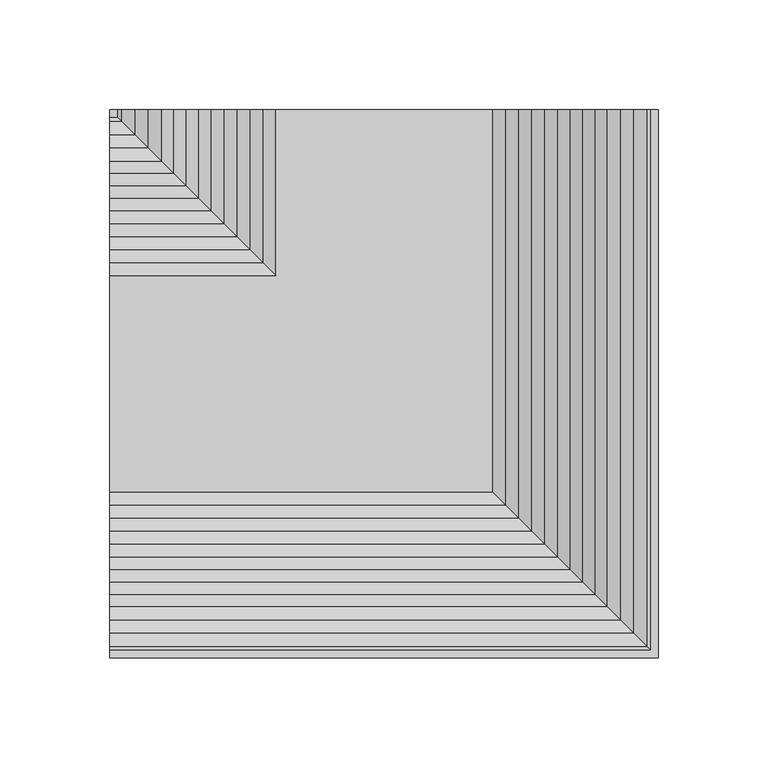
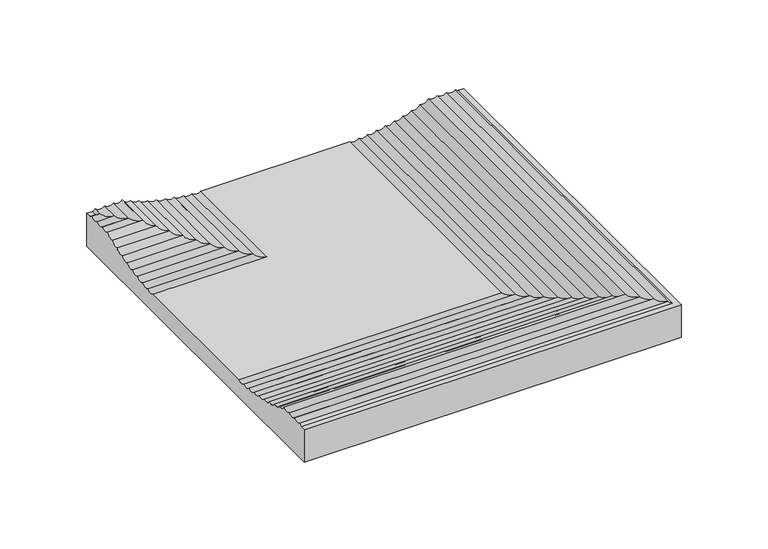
"""IFC4 building model written with IfcOpenShell, lengths in millimetres: proxy geometry, ROSA GRES_204 Esquina : Pieza 204_Aqua_Indubeige_Tecno."""

import ifcopenshell
import ifcopenshell.guid

model = None  # the IFC model being written
_history = None  # IfcOwnerHistory: only IFC2X3 demands one
_inside = {}  # id of a spatial element -> (the spatial element, [elements in it])
_under = {}  # id of a project, library or spatial element -> (it, [spatial elements below it])
_declared = {}  # id of a project -> (the project, [libraries it declares])
_typed = {}  # id of a type object -> (the type object, [elements of that type])
_made_of = {}  # id of a material, layer set ... -> (it, [elements and type objects made of it])


def new_model(schema):
    """Start an empty IFC model of exactly this schema.

    Asked for "IFC4X3", IfcOpenShell would pick the latest addendum, in which some entities
    have other attributes; the version numbers below select the first issue.
    IFC2X3 requires an IfcOwnerHistory on every rooted entity: one is made here for all.
    """
    global model, _history
    if schema == "IFC4X3":
        model = ifcopenshell.file(schema_version=(4, 3, 0, 0))
    else:
        model = ifcopenshell.file(schema=schema)
    _inside.clear()
    _under.clear()
    _declared.clear()
    _typed.clear()
    _made_of.clear()
    _history = None
    if model.schema == "IFC2X3":
        org = make("IfcOrganization", Name="unknown")
        user = make(
            "IfcPersonAndOrganization",
            ThePerson=make("IfcPerson", FamilyName="unknown"),
            TheOrganization=org,
        )
        app = make(
            "IfcApplication",
            ApplicationDeveloper=org,
            Version="unknown",
            ApplicationFullName="unknown",
            ApplicationIdentifier="unknown",
        )
        _history = make(
            "IfcOwnerHistory",
            OwningUser=user,
            OwningApplication=app,
            ChangeAction="ADDED",
            CreationDate=0,
        )
    return model


def make(cls, **values):
    """One entity of the class cls with the attributes given. An attribute that is None is left unset."""
    return model.create_entity(
        cls, **{name: value for name, value in values.items() if value is not None}
    )


def rooted(cls, **values):
    """An entity with a GlobalId (a new one), such as an element, a storey or a relation."""
    return make(cls, GlobalId=ifcopenshell.guid.new(), OwnerHistory=_history, **values)


def si_unit(unit_type, name, prefix=None):
    """IfcSIUnit, for example si_unit("LENGTHUNIT", "METRE", prefix="MILLI")."""
    return make("IfcSIUnit", UnitType=unit_type, Prefix=prefix, Name=name)


def assignment(units):
    """IfcUnitAssignment: the units of a project."""
    return None if units is None else make("IfcUnitAssignment", Units=units)


def point(xyz):
    """IfcCartesianPoint."""
    return None if xyz is None else make("IfcCartesianPoint", Coordinates=xyz)


def direction(xyz):
    """IfcDirection."""
    return None if xyz is None else make("IfcDirection", DirectionRatios=xyz)


def frame(location, z_axis=None, x_axis=None):
    """IfcAxis2Placement3D, a coordinate frame: its origin and axes. An axis left out is left unset."""
    return make(
        "IfcAxis2Placement3D",
        Location=point(location),
        Axis=direction(z_axis),
        RefDirection=direction(x_axis),
    )


def origin():
    """The frame at (0, 0, 0) with its axes left unset."""
    return frame((0.0, 0.0, 0.0))


def place(relative_to, where):
    """IfcLocalPlacement: puts the frame where relative to a parent placement (None: the world)."""
    return make(
        "IfcLocalPlacement", PlacementRelTo=relative_to, RelativePlacement=where
    )


def context(
    kind, dimensions, precision=None, world=None, true_north=None, identifier=None
):
    """IfcGeometricRepresentationContext, for example the 3D "Model" context."""
    return make(
        "IfcGeometricRepresentationContext",
        ContextIdentifier=identifier,
        ContextType=kind,
        CoordinateSpaceDimension=dimensions,
        Precision=precision,
        WorldCoordinateSystem=world,
        TrueNorth=true_north,
    )


def project(units=None, contexts=None):
    """IfcProject with its units and contexts."""
    return rooted(
        "IfcProject",
        Name="project",
        RepresentationContexts=contexts,
        UnitsInContext=assignment(units),
    )


def spatial(cls, under=None, at=None, **own):
    """A site, building, storey or space (cls), placed at a placement, below another one or the project."""
    s = rooted(cls, ObjectPlacement=at, **own)
    if under is not None:
        _under.setdefault(under.id(), (under, []))[1].append(s)
    return s


def polyline(points):
    """IfcPolyline through the points."""
    return make("IfcPolyline", Points=[point(p) for p in points])


def circle_curve(where, radius):
    """IfcCircle in the frame where."""
    return make("IfcCircle", Position=where, Radius=radius)


def ellipse_curve(where, semi_axis1, semi_axis2):
    """IfcEllipse in the frame where."""
    return make(
        "IfcEllipse", Position=where, SemiAxis1=semi_axis1, SemiAxis2=semi_axis2
    )


def shape(context_of_items, identifier, shape_type, items):
    """IfcShapeRepresentation: the items that make up one representation, for example the "Body"."""
    return make(
        "IfcShapeRepresentation",
        ContextOfItems=context_of_items,
        RepresentationIdentifier=identifier,
        RepresentationType=shape_type,
        Items=items,
    )


def source(mapping_origin, context_of_items, identifier, shape_type, items):
    """IfcRepresentationMap: a shape defined once, which mapped items show again and again."""
    return make(
        "IfcRepresentationMap",
        MappingOrigin=mapping_origin,
        MappedRepresentation=shape(context_of_items, identifier, shape_type, items),
    )


def transform(
    local_origin,
    x_axis=None,
    y_axis=None,
    z_axis=None,
    scale=None,
    scale2=None,
    scale3=None,
    uniform=True,
):
    """IfcCartesianTransformationOperator3D, or its non-uniform kind. x_axis, y_axis, z_axis: its Axis1, 2, 3."""
    if uniform:
        return make(
            "IfcCartesianTransformationOperator3D",
            Axis1=direction(x_axis),
            Axis2=direction(y_axis),
            LocalOrigin=point(local_origin),
            Scale=scale,
            Axis3=direction(z_axis),
        )
    return make(
        "IfcCartesianTransformationOperator3DnonUniform",
        Axis1=direction(x_axis),
        Axis2=direction(y_axis),
        LocalOrigin=point(local_origin),
        Scale=scale,
        Axis3=direction(z_axis),
        Scale2=scale2,
        Scale3=scale3,
    )


def mapped(mapping_source, mapping_target):
    """IfcMappedItem: shows the shape of a source again, moved by a transform."""
    return make(
        "IfcMappedItem", MappingSource=mapping_source, MappingTarget=mapping_target
    )


def made_of(thing, what):
    """Note that an element or type object is made of a material, layer set ...; save() writes the relation."""
    if what is not None:
        _made_of.setdefault(what.id(), (what, []))[1].append(thing)
    return thing


def element(
    cls,
    number,
    at=None,
    inside=None,
    cuts=None,
    type_object=None,
    material=None,
    context=None,
    identifier="Body",
    shape_type=None,
    held_by="IfcProductDefinitionShape",
    body=None,
    shapes=None,
    **own,
):
    """One element of the class cls, such as IfcWall. Its Tag is "e" and its number.

    at: its placement. inside: the storey or other place that contains it. cuts: it is an
    opening in that element (IfcRelVoidsElement). A single representation is given by context,
    identifier, shape_type and body (its items); several are given by shapes. held_by: the class
    of the entity that holds the representations. save() writes the other relations.
    """
    e = rooted(cls, Tag="e%d" % number, ObjectPlacement=at, **own)
    if body is not None:
        shapes = [shape(context, identifier, shape_type, body)]
    if shapes is not None:
        e.Representation = make(held_by, Representations=shapes)
    if inside is not None:
        _inside.setdefault(inside.id(), (inside, []))[1].append(e)
    if cuts is not None:
        rooted(
            "IfcRelVoidsElement", RelatingBuildingElement=cuts, RelatedOpeningElement=e
        )
    if type_object is not None:
        _typed.setdefault(type_object.id(), (type_object, []))[1].append(e)
    return made_of(e, material)


def aggregate(whole, parts):
    """IfcRelAggregates: a whole, such as a stair, and the parts it consists of."""
    return rooted("IfcRelAggregates", RelatingObject=whole, RelatedObjects=parts)


def save(model, path):
    """Write the relations noted so far, then the file.

    IfcRelAggregates (storeys below a building ...), IfcRelContainedInSpatialStructure (elements
    in a storey), IfcRelDefinesByType, IfcRelAssociatesMaterial and IfcRelDeclares: one each for
    every whole, place, type object, material and project.
    """
    for whole, parts in _under.values():
        aggregate(whole, parts)
    for where, things in _inside.values():
        rooted(
            "IfcRelContainedInSpatialStructure",
            RelatedElements=things,
            RelatingStructure=where,
        )
    for kind, things in _typed.values():
        rooted("IfcRelDefinesByType", RelatedObjects=things, RelatingType=kind)
    for what, things in _made_of.values():
        rooted("IfcRelAssociatesMaterial", RelatedObjects=things, RelatingMaterial=what)
    for by, libraries in _declared.values():
        rooted("IfcRelDeclares", RelatingContext=by, RelatedDefinitions=libraries)
    model.write(path)


def plane_surface(at):
    """IfcPlane: the flat surface through the origin of the frame at, square to its z axis."""
    return make("IfcPlane", Position=at)


def revolved_surface(curve, axis_point, axis_direction):
    """IfcSurfaceOfRevolution: the curve turned about the line through axis_point along axis_direction."""
    return make(
        "IfcSurfaceOfRevolution",
        SweptCurve=make("IfcArbitraryOpenProfileDef", ProfileType="CURVE", Curve=curve),
        AxisPosition=make("IfcAxis1Placement", Location=point(axis_point), Axis=direction(axis_direction)),
    )


def advanced_brep(points, edges, surfaces, faces):
    """IfcAdvancedBrep: a solid bounded by faces that lie on surfaces and meet in shared edges.

    An edge is (start, end): straight between two places in points (the first is 0);
    or (start, end, curve); or (start, end, curve, False) where it runs against its curve.
    A face is (place in surfaces, loops), or (place, loops, False) where it looks against
    its surface's normal. A loop lists edges by number (the first is 1), with a minus sign
    where the edge is run from its end to its start. The first loop is the outer one.
    """
    corners = [point(p) for p in points]
    vertices = [make("IfcVertexPoint", VertexGeometry=c) for c in corners]
    made = []
    for start, end, *more in edges:
        made.append(
            make(
                "IfcEdgeCurve",
                EdgeStart=vertices[start],
                EdgeEnd=vertices[end],
                EdgeGeometry=more[0] if more else make("IfcPolyline", Points=[corners[start], corners[end]]),
                SameSense=more[1] if len(more) > 1 else True,
            )
        )
    hull = []
    for where, loops, *sense in faces:
        bounds = []
        for j, loop in enumerate(loops):
            ring = [make("IfcOrientedEdge", EdgeElement=made[abs(k) - 1], Orientation=k > 0) for k in loop]
            bounds.append(
                make(
                    "IfcFaceOuterBound" if j == 0 else "IfcFaceBound",
                    Bound=make("IfcEdgeLoop", EdgeList=ring),
                    Orientation=True,
                )
            )
        hull.append(make("IfcAdvancedFace", Bounds=bounds, FaceSurface=surfaces[where], SameSense=sense[0] if sense else True))
    return make("IfcAdvancedBrep", Outer=make("IfcClosedShell", CfsFaces=hull))


def generic_models_85faa964(model_context):
    return source(origin(), model_context, "Body", "AdvancedBrep", [
        advanced_brep(
        [(0.0, -246.7435851, 22.8672484), (0.0, -244.8336795, 24.1254722), (0.0, -238.7501701, 24.0443215), (0.0, -232.7432044, 24.0385354), (0.0, -226.6788681, 24.1126825), (0.0, -221.1341153, 21.702672), (0.0, -215.5529324, 19.6629784), (0.0, -209.8208966, 17.7784107), (0.0, -204.0800466, 16.2504407), (0.0, -198.1884131, 14.9241491), (0.0, -192.3510521, 13.8344915), (0.0, -186.3696169, 12.9927609), (0.0, -180.4689448, 12.3552884), (0.0, -174.5684226, 11.9299493), (0.0, -75.6586011, 11.9299493), (0.0, -69.7580788, 12.3552884), (0.0, -63.8574067, 12.9927609), (0.0, -57.8759715, 13.8344915), (0.0, -52.0386105, 14.9241491), (0.0, -46.146977, 16.2504407), (0.0, -40.406127, 17.7784107), (0.0, -34.6740913, 19.6629784), (0.0, -29.0929084, 21.702672), (0.0, -23.5481555, 24.1126825), (0.0, -17.4838192, 24.0385354), (0.0, -11.4768535, 24.0443215), (0.0, -5.3933441, 24.1254722), (0.0, -3.4834385, 22.8672484), (0.0, 0.0, 22.8672484), (0.0, 0.0, 0.0), (0.0, -250.2270236, 0.0), (0.0, -250.2270236, 22.8672484), (246.7435851, 0.0, 22.8672484), (250.2270236, 0.0, 22.8672484), (250.2270236, 0.0, 0.0), (3.4834385, 0.0, 22.8672484), (5.3933441, 0.0, 24.1254722), (11.4768535, 0.0, 24.0443215), (17.4838192, 0.0, 24.0385354), (23.5481555, 0.0, 24.1126825), (29.0929084, 0.0, 21.702672), (34.6740913, 0.0, 19.6629784), (40.406127, 0.0, 17.7784107), (46.146977, 0.0, 16.2504407), (52.0386105, 0.0, 14.9241491), (57.8759715, 0.0, 13.8344915), (63.8574067, 0.0, 12.9927609), (69.7580788, 0.0, 12.3552884), (75.6586011, 0.0, 11.9299493), (174.5684226, 0.0, 11.9299493), (180.4689448, 0.0, 12.3552884), (186.3696169, 0.0, 12.9927609), (192.3510521, 0.0, 13.8344915), (198.1884131, 0.0, 14.9241491), (204.0800466, 0.0, 16.2504407), (209.8208966, 0.0, 17.7784107), (215.5529324, 0.0, 19.6629784), (221.1341153, 0.0, 21.702672), (226.6788681, 0.0, 24.1126825), (232.7432044, 0.0, 24.0385354), (238.7501701, 0.0, 24.0443215), (244.8336795, 0.0, 24.1254722), (250.2270236, -250.2270236, 22.8672484), (246.7435851, -246.7435851, 22.8672484), (250.2270236, -250.2270236, 0.0), (3.4834385, -3.4834385, 22.8672484), (5.3933441, -5.3933441, 24.1254722), (11.4768535, -11.4768535, 24.0443215), (17.4838192, -17.4838192, 24.0385354), (23.5481555, -23.5481555, 24.1126825), (29.0929084, -29.0929084, 21.702672), (34.6740913, -34.6740913, 19.6629784), (40.406127, -40.406127, 17.7784107), (46.146977, -46.146977, 16.2504407), (52.0386105, -52.0386105, 14.9241491), (57.8759715, -57.8759715, 13.8344915), (63.8574067, -63.8574067, 12.9927609), (69.7580788, -69.7580788, 12.3552884), (75.6586011, -75.6586011, 11.9299493), (174.5684226, -174.5684226, 11.9299493), (180.4689448, -180.4689448, 12.3552884), (186.3696169, -186.3696169, 12.9927609), (192.3510521, -192.3510521, 13.8344915), (198.1884131, -198.1884131, 14.9241491), (204.0800466, -204.0800466, 16.2504407), (209.8208966, -209.8208966, 17.7784107), (215.5529324, -215.5529324, 19.6629784), (221.1341153, -221.1341153, 21.702672), (226.6788681, -226.6788681, 24.1126825), (232.7432044, -232.7432044, 24.0385354), (238.7501701, -238.7501701, 24.0443215), (244.8336795, -244.8336795, 24.1254722)],
        [
            (0, 1, circle_curve(frame((0.0, -246.7435851, 24.9459193), z_axis=(1.0, 0.0, 0.0), x_axis=(0.0, -1.0, 0.0)), 2.078671)),
            (1, 2, circle_curve(frame((0.0, -241.7497795, 27.2443435), z_axis=(1.0, 0.0, 0.0), x_axis=(0.0, -1.0, 0.0)), 4.3860914)),
            (2, 3, circle_curve(frame((0.0, -235.7435851, 27.2619892), z_axis=(1.0, 0.0, 0.0), x_axis=(0.0, -1.0, 0.0)), 4.4037415)),
            (3, 4, circle_curve(frame((0.0, -229.7497795, 27.2443435), z_axis=(1.0, 0.0, 0.0), x_axis=(0.0, -1.0, 0.0)), 4.3860914)),
            (4, 5, circle_curve(frame((0.0, -222.6396721, 25.8222711), z_axis=(1.0, 0.0, 0.0), x_axis=(0.0, -1.0, 0.0)), 4.3860914)),
            (5, 6, circle_curve(frame((0.0, -217.2360124, 23.7132919), z_axis=(1.0, 0.0, 0.0), x_axis=(0.0, -1.0, 0.0)), 4.3860914)),
            (6, 7, circle_curve(frame((0.0, -211.6925532, 21.7451095), z_axis=(1.0, 0.0, 0.0), x_axis=(0.0, -1.0, 0.0)), 4.3860914)),
            (7, 8, circle_curve(frame((0.0, -206.1204268, 20.1330489), z_axis=(1.0, 0.0, 0.0), x_axis=(0.0, -1.0, 0.0)), 4.3860914)),
            (8, 9, circle_curve(frame((0.0, -200.435574, 18.690854), z_axis=(1.0, 0.0, 0.0), x_axis=(0.0, -1.0, 0.0)), 4.3860914)),
            (9, 10, circle_curve(frame((0.0, -194.6773303, 17.5528551), z_axis=(1.0, 0.0, 0.0), x_axis=(0.0, -1.0, 0.0)), 4.3860914)),
            (10, 11, circle_curve(frame((0.0, -188.917114, 16.563203), z_axis=(1.0, 0.0, 0.0), x_axis=(0.0, -1.0, 0.0)), 4.3860914)),
            (11, 12, circle_curve(frame((0.0, -183.0723697, 15.8851576), z_axis=(1.0, 0.0, 0.0), x_axis=(0.0, -1.0, 0.0)), 4.3860914)),
            (12, 13, circle_curve(frame((0.0, -177.2858334, 15.372837), z_axis=(1.0, 0.0, 0.0), x_axis=(0.0, -1.0, 0.0)), 4.3860914)),
            (13, 14),
            (14, 15, circle_curve(frame((0.0, -72.9411902, 15.372837), z_axis=(1.0, 0.0, 0.0), x_axis=(0.0, -1.0, 0.0)), 4.3860914)),
            (15, 16, circle_curve(frame((0.0, -67.1546539, 15.8851576), z_axis=(1.0, 0.0, 0.0), x_axis=(0.0, -1.0, 0.0)), 4.3860914)),
            (16, 17, circle_curve(frame((0.0, -61.3099097, 16.563203), z_axis=(1.0, 0.0, 0.0), x_axis=(0.0, -1.0, 0.0)), 4.3860914)),
            (17, 18, circle_curve(frame((0.0, -55.5496933, 17.5528551), z_axis=(1.0, 0.0, 0.0), x_axis=(0.0, -1.0, 0.0)), 4.3860914)),
            (18, 19, circle_curve(frame((0.0, -49.7914497, 18.690854), z_axis=(1.0, 0.0, 0.0), x_axis=(0.0, -1.0, 0.0)), 4.3860914)),
            (19, 20, circle_curve(frame((0.0, -44.1065968, 20.1330489), z_axis=(1.0, 0.0, 0.0), x_axis=(0.0, -1.0, 0.0)), 4.3860914)),
            (20, 21, circle_curve(frame((0.0, -38.5344705, 21.7451095), z_axis=(1.0, 0.0, 0.0), x_axis=(0.0, -1.0, 0.0)), 4.3860914)),
            (21, 22, circle_curve(frame((0.0, -32.9910112, 23.7132919), z_axis=(1.0, 0.0, 0.0), x_axis=(0.0, -1.0, 0.0)), 4.3860914)),
            (22, 23, circle_curve(frame((0.0, -27.5873515, 25.8222711), z_axis=(1.0, 0.0, 0.0), x_axis=(0.0, -1.0, 0.0)), 4.3860914)),
            (23, 24, circle_curve(frame((0.0, -20.4772441, 27.2443435), z_axis=(1.0, 0.0, 0.0), x_axis=(0.0, -1.0, 0.0)), 4.3860914)),
            (24, 25, circle_curve(frame((0.0, -14.4834385, 27.2619892), z_axis=(1.0, 0.0, 0.0), x_axis=(0.0, -1.0, 0.0)), 4.4037415)),
            (25, 26, circle_curve(frame((0.0, -8.4772441, 27.2443435), z_axis=(1.0, 0.0, 0.0), x_axis=(0.0, -1.0, 0.0)), 4.3860914)),
            (26, 27, circle_curve(frame((0.0, -3.4834385, 24.9459193), z_axis=(1.0, 0.0, 0.0), x_axis=(0.0, -1.0, 0.0)), 2.078671)),
            (27, 28),
            (28, 29),
            (29, 30),
            (30, 31),
            (31, 0),
            (32, 33),
            (33, 34),
            (34, 29),
            (28, 35),
            (35, 36, circle_curve(frame((3.4834385, 0.0, 24.9459193), z_axis=(0.0, -1.0, 0.0), x_axis=(1.0, 0.0, 0.0)), 2.078671)),
            (36, 37, circle_curve(frame((8.4772441, 0.0, 27.2443435), z_axis=(0.0, -1.0, 0.0), x_axis=(1.0, 0.0, 0.0)), 4.3860914)),
            (37, 38, circle_curve(frame((14.4834385, 0.0, 27.2619892), z_axis=(0.0, -1.0, 0.0), x_axis=(1.0, 0.0, 0.0)), 4.4037415)),
            (38, 39, circle_curve(frame((20.4772441, 0.0, 27.2443435), z_axis=(0.0, -1.0, 0.0), x_axis=(1.0, 0.0, 0.0)), 4.3860914)),
            (39, 40, circle_curve(frame((27.5873515, 0.0, 25.8222711), z_axis=(0.0, -1.0, 0.0), x_axis=(1.0, 0.0, 0.0)), 4.3860914)),
            (40, 41, circle_curve(frame((32.9910112, 0.0, 23.7132919), z_axis=(0.0, -1.0, 0.0), x_axis=(1.0, 0.0, 0.0)), 4.3860914)),
            (41, 42, circle_curve(frame((38.5344705, 0.0, 21.7451095), z_axis=(0.0, -1.0, 0.0), x_axis=(1.0, 0.0, 0.0)), 4.3860914)),
            (42, 43, circle_curve(frame((44.1065968, 0.0, 20.1330489), z_axis=(0.0, -1.0, 0.0), x_axis=(1.0, 0.0, 0.0)), 4.3860914)),
            (43, 44, circle_curve(frame((49.7914497, 0.0, 18.690854), z_axis=(0.0, -1.0, 0.0), x_axis=(1.0, 0.0, 0.0)), 4.3860914)),
            (44, 45, circle_curve(frame((55.5496933, 0.0, 17.5528551), z_axis=(0.0, -1.0, 0.0), x_axis=(1.0, 0.0, 0.0)), 4.3860914)),
            (45, 46, circle_curve(frame((61.3099097, 0.0, 16.563203), z_axis=(0.0, -1.0, 0.0), x_axis=(1.0, 0.0, 0.0)), 4.3860914)),
            (46, 47, circle_curve(frame((67.1546539, 0.0, 15.8851576), z_axis=(0.0, -1.0, 0.0), x_axis=(1.0, 0.0, 0.0)), 4.3860914)),
            (47, 48, circle_curve(frame((72.9411902, 0.0, 15.372837), z_axis=(0.0, -1.0, 0.0), x_axis=(1.0, 0.0, 0.0)), 4.3860914)),
            (48, 49),
            (49, 50, circle_curve(frame((177.2858334, 0.0, 15.372837), z_axis=(0.0, -1.0, 0.0), x_axis=(1.0, 0.0, 0.0)), 4.3860914)),
            (50, 51, circle_curve(frame((183.0723697, 0.0, 15.8851576), z_axis=(0.0, -1.0, 0.0), x_axis=(1.0, 0.0, 0.0)), 4.3860914)),
            (51, 52, circle_curve(frame((188.917114, 0.0, 16.563203), z_axis=(0.0, -1.0, 0.0), x_axis=(1.0, 0.0, 0.0)), 4.3860914)),
            (52, 53, circle_curve(frame((194.6773303, 0.0, 17.5528551), z_axis=(0.0, -1.0, 0.0), x_axis=(1.0, 0.0, 0.0)), 4.3860914)),
            (53, 54, circle_curve(frame((200.435574, 0.0, 18.690854), z_axis=(0.0, -1.0, 0.0), x_axis=(1.0, 0.0, 0.0)), 4.3860914)),
            (54, 55, circle_curve(frame((206.1204268, 0.0, 20.1330489), z_axis=(0.0, -1.0, 0.0), x_axis=(1.0, 0.0, 0.0)), 4.3860914)),
            (55, 56, circle_curve(frame((211.6925532, 0.0, 21.7451095), z_axis=(0.0, -1.0, 0.0), x_axis=(1.0, 0.0, 0.0)), 4.3860914)),
            (56, 57, circle_curve(frame((217.2360124, 0.0, 23.7132919), z_axis=(0.0, -1.0, 0.0), x_axis=(1.0, 0.0, 0.0)), 4.3860914)),
            (57, 58, circle_curve(frame((222.6396721, 0.0, 25.8222711), z_axis=(0.0, -1.0, 0.0), x_axis=(1.0, 0.0, 0.0)), 4.3860914)),
            (58, 59, circle_curve(frame((229.7497795, 0.0, 27.2443435), z_axis=(0.0, -1.0, 0.0), x_axis=(1.0, 0.0, 0.0)), 4.3860914)),
            (59, 60, circle_curve(frame((235.7435851, 0.0, 27.2619892), z_axis=(0.0, -1.0, 0.0), x_axis=(1.0, 0.0, 0.0)), 4.4037415)),
            (60, 61, circle_curve(frame((241.7497795, 0.0, 27.2443435), z_axis=(0.0, -1.0, 0.0), x_axis=(1.0, 0.0, 0.0)), 4.3860914)),
            (61, 32, circle_curve(frame((246.7435851, 0.0, 24.9459193), z_axis=(0.0, -1.0, 0.0), x_axis=(1.0, 0.0, 0.0)), 2.078671)),
            (31, 62),
            (62, 33),
            (32, 63),
            (63, 0),
            (30, 64),
            (64, 62),
            (34, 64),
            (27, 65),
            (65, 35),
            (26, 66),
            (66, 65, ellipse_curve(frame((3.4834385, -3.4834385, 24.9459193), z_axis=(0.707106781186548, 0.7071067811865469, 0.0), x_axis=(0.7071067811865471, -0.7071067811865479, 0.0)), 2.9396847, 2.078671)),
            (25, 67),
            (67, 66, ellipse_curve(frame((8.4772441, -8.4772441, 27.2443435), z_axis=(0.707106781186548, 0.7071067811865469, 0.0), x_axis=(0.7071067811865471, -0.7071067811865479, 0.0)), 6.20287, 4.3860914)),
            (24, 68),
            (68, 67, ellipse_curve(frame((14.4834385, -14.4834385, 27.2619892), z_axis=(0.707106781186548, 0.7071067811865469, 0.0), x_axis=(0.7071067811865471, -0.7071067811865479, 0.0)), 6.2278309, 4.4037415)),
            (23, 69),
            (69, 68, ellipse_curve(frame((20.4772441, -20.4772441, 27.2443435), z_axis=(0.707106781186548, 0.7071067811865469, 0.0), x_axis=(0.7071067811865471, -0.7071067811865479, 0.0)), 6.20287, 4.3860914)),
            (22, 70),
            (70, 69, ellipse_curve(frame((27.5873515, -27.5873515, 25.8222711), z_axis=(0.707106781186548, 0.7071067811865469, 0.0), x_axis=(0.7071067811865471, -0.7071067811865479, 0.0)), 6.20287, 4.3860914)),
            (21, 71),
            (71, 70, ellipse_curve(frame((32.9910112, -32.9910112, 23.7132919), z_axis=(0.707106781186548, 0.7071067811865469, 0.0), x_axis=(0.7071067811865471, -0.7071067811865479, 0.0)), 6.20287, 4.3860914)),
            (20, 72),
            (72, 71, ellipse_curve(frame((38.5344705, -38.5344705, 21.7451095), z_axis=(0.707106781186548, 0.7071067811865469, 0.0), x_axis=(0.7071067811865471, -0.7071067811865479, 0.0)), 6.20287, 4.3860914)),
            (19, 73),
            (73, 72, ellipse_curve(frame((44.1065968, -44.1065968, 20.1330489), z_axis=(0.707106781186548, 0.7071067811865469, 0.0), x_axis=(0.7071067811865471, -0.7071067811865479, 0.0)), 6.20287, 4.3860914)),
            (18, 74),
            (74, 73, ellipse_curve(frame((49.7914497, -49.7914497, 18.690854), z_axis=(0.707106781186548, 0.7071067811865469, 0.0), x_axis=(0.7071067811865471, -0.7071067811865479, 0.0)), 6.20287, 4.3860914)),
            (17, 75),
            (75, 74, ellipse_curve(frame((55.5496933, -55.5496933, 17.5528551), z_axis=(0.707106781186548, 0.7071067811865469, 0.0), x_axis=(0.7071067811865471, -0.7071067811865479, 0.0)), 6.20287, 4.3860914)),
            (16, 76),
            (76, 75, ellipse_curve(frame((61.3099097, -61.3099097, 16.563203), z_axis=(0.707106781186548, 0.7071067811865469, 0.0), x_axis=(0.7071067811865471, -0.7071067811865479, 0.0)), 6.20287, 4.3860914)),
            (15, 77),
            (77, 76, ellipse_curve(frame((67.1546539, -67.1546539, 15.8851576), z_axis=(0.707106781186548, 0.7071067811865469, 0.0), x_axis=(0.7071067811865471, -0.7071067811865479, 0.0)), 6.20287, 4.3860914)),
            (14, 78),
            (78, 77, ellipse_curve(frame((72.9411902, -72.9411902, 15.372837), z_axis=(0.707106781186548, 0.7071067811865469, 0.0), x_axis=(0.7071067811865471, -0.7071067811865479, 0.0)), 6.20287, 4.3860914)),
            (13, 79),
            (79, 49),
            (48, 78),
            (12, 80),
            (80, 79, ellipse_curve(frame((177.2858334, -177.2858334, 15.372837), z_axis=(0.707106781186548, 0.7071067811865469, 0.0), x_axis=(0.7071067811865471, -0.7071067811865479, 0.0)), 6.20287, 4.3860914)),
            (11, 81),
            (81, 80, ellipse_curve(frame((183.0723697, -183.0723697, 15.8851576), z_axis=(0.707106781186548, 0.7071067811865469, 0.0), x_axis=(0.7071067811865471, -0.7071067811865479, 0.0)), 6.20287, 4.3860914)),
            (10, 82),
            (82, 81, ellipse_curve(frame((188.917114, -188.917114, 16.563203), z_axis=(0.707106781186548, 0.7071067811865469, 0.0), x_axis=(0.7071067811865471, -0.7071067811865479, 0.0)), 6.20287, 4.3860914)),
            (9, 83),
            (83, 82, ellipse_curve(frame((194.6773303, -194.6773303, 17.5528551), z_axis=(0.707106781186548, 0.7071067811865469, 0.0), x_axis=(0.7071067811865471, -0.7071067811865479, 0.0)), 6.20287, 4.3860914)),
            (8, 84),
            (84, 83, ellipse_curve(frame((200.435574, -200.435574, 18.690854), z_axis=(0.707106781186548, 0.7071067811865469, 0.0), x_axis=(0.7071067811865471, -0.7071067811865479, 0.0)), 6.20287, 4.3860914)),
            (7, 85),
            (85, 84, ellipse_curve(frame((206.1204268, -206.1204268, 20.1330489), z_axis=(0.707106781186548, 0.7071067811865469, 0.0), x_axis=(0.7071067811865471, -0.7071067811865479, 0.0)), 6.20287, 4.3860914)),
            (6, 86),
            (86, 85, ellipse_curve(frame((211.6925532, -211.6925532, 21.7451095), z_axis=(0.707106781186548, 0.7071067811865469, 0.0), x_axis=(0.7071067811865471, -0.7071067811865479, 0.0)), 6.20287, 4.3860914)),
            (5, 87),
            (87, 86, ellipse_curve(frame((217.2360124, -217.2360124, 23.7132919), z_axis=(0.707106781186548, 0.7071067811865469, 0.0), x_axis=(0.7071067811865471, -0.7071067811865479, 0.0)), 6.20287, 4.3860914)),
            (4, 88),
            (88, 87, ellipse_curve(frame((222.6396721, -222.6396721, 25.8222711), z_axis=(0.707106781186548, 0.7071067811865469, 0.0), x_axis=(0.7071067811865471, -0.7071067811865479, 0.0)), 6.20287, 4.3860914)),
            (3, 89),
            (89, 88, ellipse_curve(frame((229.7497795, -229.7497795, 27.2443435), z_axis=(0.707106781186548, 0.7071067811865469, 0.0), x_axis=(0.7071067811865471, -0.7071067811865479, 0.0)), 6.20287, 4.3860914)),
            (2, 90),
            (90, 89, ellipse_curve(frame((235.7435851, -235.7435851, 27.2619892), z_axis=(0.707106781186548, 0.7071067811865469, 0.0), x_axis=(0.7071067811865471, -0.7071067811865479, 0.0)), 6.2278309, 4.4037415)),
            (1, 91),
            (91, 90, ellipse_curve(frame((241.7497795, -241.7497795, 27.2443435), z_axis=(0.707106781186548, 0.7071067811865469, 0.0), x_axis=(0.7071067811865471, -0.7071067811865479, 0.0)), 6.20287, 4.3860914)),
            (63, 91, ellipse_curve(frame((246.7435851, -246.7435851, 24.9459193), z_axis=(0.707106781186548, 0.7071067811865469, 0.0), x_axis=(0.7071067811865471, -0.7071067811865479, 0.0)), 2.9396847, 2.078671)),
            (66, 36),
            (67, 37),
            (68, 38),
            (69, 39),
            (70, 40),
            (71, 41),
            (72, 42),
            (73, 43),
            (74, 44),
            (75, 45),
            (76, 46),
            (77, 47),
            (80, 50),
            (81, 51),
            (82, 52),
            (83, 53),
            (84, 54),
            (85, 55),
            (86, 56),
            (87, 57),
            (88, 58),
            (89, 59),
            (90, 60),
            (91, 61),
        ],
        [
            plane_surface(frame((0.0, -250.0, 0.0), z_axis=(-1.0, 0.0, 0.0), x_axis=(0.0, 0.0, 1.0))),
            plane_surface(frame((250.0, 0.0, 0.0), z_axis=(0.0, 1.0, 0.0), x_axis=(0.0, 0.0, 1.0))),
            plane_surface(frame((0.0, -246.7435851, 22.8672484), z_axis=(0.0, 0.0, 1.0), x_axis=(1.0, 0.0, 0.0))),
            plane_surface(frame((0.0, -250.2270236, 22.8672484), z_axis=(0.0, -1.0, 0.0), x_axis=(1.0, 0.0, 0.0))),
            plane_surface(frame((0.0, -250.2270236, 0.0), z_axis=(0.0, 0.0, -1.0), x_axis=(1.0, 0.0, 0.0))),
            plane_surface(frame((0.0, 0.0, 22.8672484), z_axis=(0.0, 4.293775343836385e-12, 1.0), x_axis=(1.0, 0.0, 0.0))),
            revolved_surface(polyline([(5.56210948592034, -5.5621095, 24.9459193), (0.0, -5.5621095, 24.9459193)]), (0.0, -3.4834385, 24.9459193), (1.0, 0.0, 0.0)),
            revolved_surface(polyline([(12.863335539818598, -12.8633355, 27.2443435), (0.0, -12.8633355, 27.2443435)]), (0.0, -8.4772441, 27.2443435), (1.0, 0.0, 0.0)),
            revolved_surface(polyline([(18.887179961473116, -18.88718, 27.2619892), (0.0, -18.88718, 27.2619892)]), (0.0, -14.4834385, 27.2619892), (1.0, 0.0, 0.0)),
            revolved_surface(polyline([(24.8633355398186, -24.863335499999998, 27.2443435), (0.0, -24.863335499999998, 27.2443435)]), (0.0, -20.4772441, 27.2443435), (1.0, 0.0, 0.0)),
            revolved_surface(polyline([(31.973442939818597, -31.973442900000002, 25.8222711), (0.0, -31.973442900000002, 25.8222711)]), (0.0, -27.5873515, 25.8222711), (1.0, 0.0, 0.0)),
            revolved_surface(polyline([(37.3771026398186, -37.3771026, 23.7132919), (0.0, -37.3771026, 23.7132919)]), (0.0, -32.9910112, 23.7132919), (1.0, 0.0, 0.0)),
            revolved_surface(polyline([(42.9205619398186, -42.920561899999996, 21.7451095), (0.0, -42.920561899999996, 21.7451095)]), (0.0, -38.5344705, 21.7451095), (1.0, 0.0, 0.0)),
            revolved_surface(polyline([(48.4926882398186, -48.492688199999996, 20.1330489), (0.0, -48.492688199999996, 20.1330489)]), (0.0, -44.1065968, 20.1330489), (1.0, 0.0, 0.0)),
            revolved_surface(polyline([(54.1775411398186, -54.1775411, 18.690854), (0.0, -54.1775411, 18.690854)]), (0.0, -49.7914497, 18.690854), (1.0, 0.0, 0.0)),
            revolved_surface(polyline([(59.9357847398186, -59.9357847, 17.5528551), (0.0, -59.9357847, 17.5528551)]), (0.0, -55.5496933, 17.5528551), (1.0, 0.0, 0.0)),
            revolved_surface(polyline([(65.69600113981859, -65.6960011, 16.563203), (0.0, -65.6960011, 16.563203)]), (0.0, -61.3099097, 16.563203), (1.0, 0.0, 0.0)),
            revolved_surface(polyline([(71.5407453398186, -71.5407453, 15.8851576), (0.0, -71.5407453, 15.8851576)]), (0.0, -67.1546539, 15.8851576), (1.0, 0.0, 0.0)),
            revolved_surface(polyline([(77.3272816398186, -77.32728159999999, 15.372837), (0.0, -77.32728159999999, 15.372837)]), (0.0, -72.9411902, 15.372837), (1.0, 0.0, 0.0)),
            plane_surface(frame((0.0, -75.6586011, 11.9299493), z_axis=(0.0, 0.0, 1.0), x_axis=(1.0, 0.0, 0.0))),
            revolved_surface(polyline([(181.6719248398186, -181.6719248, 15.372837), (0.0, -181.6719248, 15.372837)]), (0.0, -177.2858334, 15.372837), (1.0, 0.0, 0.0)),
            revolved_surface(polyline([(187.45846113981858, -187.4584611, 15.8851576), (0.0, -187.4584611, 15.8851576)]), (0.0, -183.0723697, 15.8851576), (1.0, 0.0, 0.0)),
            revolved_surface(polyline([(193.30320543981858, -193.3032054, 16.563203), (0.0, -193.3032054, 16.563203)]), (0.0, -188.917114, 16.563203), (1.0, 0.0, 0.0)),
            revolved_surface(polyline([(199.06342173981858, -199.0634217, 17.5528551), (0.0, -199.0634217, 17.5528551)]), (0.0, -194.6773303, 17.5528551), (1.0, 0.0, 0.0)),
            revolved_surface(polyline([(204.8216654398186, -204.8216654, 18.690854), (0.0, -204.8216654, 18.690854)]), (0.0, -200.435574, 18.690854), (1.0, 0.0, 0.0)),
            revolved_surface(polyline([(210.50651823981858, -210.5065182, 20.1330489), (0.0, -210.5065182, 20.1330489)]), (0.0, -206.1204268, 20.1330489), (1.0, 0.0, 0.0)),
            revolved_surface(polyline([(216.07864463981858, -216.0786446, 21.7451095), (0.0, -216.0786446, 21.7451095)]), (0.0, -211.6925532, 21.7451095), (1.0, 0.0, 0.0)),
            revolved_surface(polyline([(221.62210383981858, -221.6221038, 23.7132919), (0.0, -221.6221038, 23.7132919)]), (0.0, -217.2360124, 23.7132919), (1.0, 0.0, 0.0)),
            revolved_surface(polyline([(227.0257635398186, -227.0257635, 25.8222711), (0.0, -227.0257635, 25.8222711)]), (0.0, -222.6396721, 25.8222711), (1.0, 0.0, 0.0)),
            revolved_surface(polyline([(234.13587093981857, -234.1358709, 27.2443435), (0.0, -234.1358709, 27.2443435)]), (0.0, -229.7497795, 27.2443435), (1.0, 0.0, 0.0)),
            revolved_surface(polyline([(240.1473265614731, -240.14732659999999, 27.2619892), (0.0, -240.14732659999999, 27.2619892)]), (0.0, -235.7435851, 27.2619892), (1.0, 0.0, 0.0)),
            revolved_surface(polyline([(246.13587093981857, -246.1358709, 27.2443435), (0.0, -246.1358709, 27.2443435)]), (0.0, -241.7497795, 27.2443435), (1.0, 0.0, 0.0)),
            revolved_surface(polyline([(248.82225608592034, -248.8222561, 24.9459193), (0.0, -248.8222561, 24.9459193)]), (0.0, -246.7435851, 24.9459193), (1.0, 0.0, 0.0)),
            plane_surface(frame((250.2270236, -250.2270236, 22.8672484), z_axis=(1.0, 0.0, 0.0), x_axis=(0.0, 1.0, 0.0))),
            revolved_surface(polyline([(5.5621095, 0.0, 24.9459193), (5.5621095, -5.5621094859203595, 24.9459193)]), (3.4834385, -250.0, 24.9459193), (0.0, 1.0, 0.0)),
            revolved_surface(polyline([(12.8633355, 0.0, 27.2443435), (12.8633355, -12.863335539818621, 27.2443435)]), (8.4772441, -250.0, 27.2443435), (0.0, 1.0, 0.0)),
            revolved_surface(polyline([(18.88718, 0.0, 27.2619892), (18.88718, -18.887179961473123, 27.2619892)]), (14.4834385, -250.0, 27.2619892), (0.0, 1.0, 0.0)),
            revolved_surface(polyline([(24.863335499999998, 0.0, 27.2443435), (24.863335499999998, -24.86333553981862, 27.2443435)]), (20.4772441, -250.0, 27.2443435), (0.0, 1.0, 0.0)),
            revolved_surface(polyline([(31.973442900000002, 0.0, 25.8222711), (31.973442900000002, -31.973442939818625, 25.8222711)]), (27.5873515, -250.0, 25.8222711), (0.0, 1.0, 0.0)),
            revolved_surface(polyline([(37.3771026, 0.0, 23.7132919), (37.3771026, -37.37710263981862, 23.7132919)]), (32.9910112, -250.0, 23.7132919), (0.0, 1.0, 0.0)),
            revolved_surface(polyline([(42.920561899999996, 0.0, 21.7451095), (42.920561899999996, -42.92056193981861, 21.7451095)]), (38.5344705, -250.0, 21.7451095), (0.0, 1.0, 0.0)),
            revolved_surface(polyline([(48.492688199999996, 0.0, 20.1330489), (48.492688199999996, -48.49268823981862, 20.1330489)]), (44.1065968, -250.0, 20.1330489), (0.0, 1.0, 0.0)),
            revolved_surface(polyline([(54.1775411, 0.0, 18.690854), (54.1775411, -54.1775411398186, 18.690854)]), (49.7914497, -250.0, 18.690854), (0.0, 1.0, 0.0)),
            revolved_surface(polyline([(59.9357847, 0.0, 17.5528551), (59.9357847, -59.935784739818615, 17.5528551)]), (55.5496933, -250.0, 17.5528551), (0.0, 1.0, 0.0)),
            revolved_surface(polyline([(65.6960011, 0.0, 16.563203), (65.6960011, -65.6960011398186, 16.563203)]), (61.3099097, -250.0, 16.563203), (0.0, 1.0, 0.0)),
            revolved_surface(polyline([(71.5407453, 0.0, 15.8851576), (71.5407453, -71.54074533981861, 15.8851576)]), (67.1546539, -250.0, 15.8851576), (0.0, 1.0, 0.0)),
            revolved_surface(polyline([(77.32728159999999, 0.0, 15.372837), (77.32728159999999, -77.32728163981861, 15.372837)]), (72.9411902, -250.0, 15.372837), (0.0, 1.0, 0.0)),
            revolved_surface(polyline([(181.6719248, 0.0, 15.372837), (181.6719248, -181.6719248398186, 15.372837)]), (177.2858334, -250.0, 15.372837), (0.0, 1.0, 0.0)),
            revolved_surface(polyline([(187.4584611, 0.0, 15.8851576), (187.4584611, -187.4584611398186, 15.8851576)]), (183.0723697, -250.0, 15.8851576), (0.0, 1.0, 0.0)),
            revolved_surface(polyline([(193.3032054, 0.0, 16.563203), (193.3032054, -193.3032054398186, 16.563203)]), (188.917114, -250.0, 16.563203), (0.0, 1.0, 0.0)),
            revolved_surface(polyline([(199.0634217, 0.0, 17.5528551), (199.0634217, -199.06342173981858, 17.5528551)]), (194.6773303, -250.0, 17.5528551), (0.0, 1.0, 0.0)),
            revolved_surface(polyline([(204.8216654, 0.0, 18.690854), (204.8216654, -204.82166543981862, 18.690854)]), (200.435574, -250.0, 18.690854), (0.0, 1.0, 0.0)),
            revolved_surface(polyline([(210.5065182, 0.0, 20.1330489), (210.5065182, -210.5065182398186, 20.1330489)]), (206.1204268, -250.0, 20.1330489), (0.0, 1.0, 0.0)),
            revolved_surface(polyline([(216.0786446, 0.0, 21.7451095), (216.0786446, -216.0786446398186, 21.7451095)]), (211.6925532, -250.0, 21.7451095), (0.0, 1.0, 0.0)),
            revolved_surface(polyline([(221.6221038, 0.0, 23.7132919), (221.6221038, -221.6221038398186, 23.7132919)]), (217.2360124, -250.0, 23.7132919), (0.0, 1.0, 0.0)),
            revolved_surface(polyline([(227.0257635, 0.0, 25.8222711), (227.0257635, -227.02576353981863, 25.8222711)]), (222.6396721, -250.0, 25.8222711), (0.0, 1.0, 0.0)),
            revolved_surface(polyline([(234.1358709, 0.0, 27.2443435), (234.1358709, -234.1358709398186, 27.2443435)]), (229.7497795, -250.0, 27.2443435), (0.0, 1.0, 0.0)),
            revolved_surface(polyline([(240.14732659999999, 0.0, 27.2619892), (240.14732659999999, -240.1473265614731, 27.2619892)]), (235.7435851, -250.0, 27.2619892), (0.0, 1.0, 0.0)),
            revolved_surface(polyline([(246.1358709, 0.0, 27.2443435), (246.1358709, -246.1358709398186, 27.2443435)]), (241.7497795, -250.0, 27.2443435), (0.0, 1.0, 0.0)),
            revolved_surface(polyline([(248.8222561, 0.0, 24.9459193), (248.8222561, -248.82225608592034, 24.9459193)]), (246.7435851, -250.0, 24.9459193), (0.0, 1.0, 0.0)),
        ],
        [
            (0, [[1, 2, 3, 4, 5, 6, 7, 8, 9, 10, 11, 12, 13, 14, 15, 16, 17, 18, 19, 20, 21, 22, 23, 24, 25, 26, 27, 28, 29, 30, 31, 32]]),
            (1, [[33, 34, 35, -29, 36, 37, 38, 39, 40, 41, 42, 43, 44, 45, 46, 47, 48, 49, 50, 51, 52, 53, 54, 55, 56, 57, 58, 59, 60, 61, 62, 63]]),
            (2, [[64, 65, -33, 66, 67, -32]]),
            (3, [[68, 69, -64, -31]]),
            (4, [[-35, 70, -68, -30]]),
            (5, [[71, 72, -36, -28]]),
            (6, [[73, 74, -71, -27]]),
            (7, [[75, 76, -73, -26]]),
            (8, [[77, 78, -75, -25]]),
            (9, [[79, 80, -77, -24]]),
            (10, [[81, 82, -79, -23]]),
            (11, [[83, 84, -81, -22]]),
            (12, [[85, 86, -83, -21]]),
            (13, [[87, 88, -85, -20]]),
            (14, [[89, 90, -87, -19]]),
            (15, [[91, 92, -89, -18]]),
            (16, [[93, 94, -91, -17]]),
            (17, [[95, 96, -93, -16]]),
            (18, [[97, 98, -95, -15]]),
            (19, [[99, 100, -50, 101, -97, -14]]),
            (20, [[102, 103, -99, -13]]),
            (21, [[104, 105, -102, -12]]),
            (22, [[106, 107, -104, -11]]),
            (23, [[108, 109, -106, -10]]),
            (24, [[110, 111, -108, -9]]),
            (25, [[112, 113, -110, -8]]),
            (26, [[114, 115, -112, -7]]),
            (27, [[116, 117, -114, -6]]),
            (28, [[118, 119, -116, -5]]),
            (29, [[120, 121, -118, -4]]),
            (30, [[122, 123, -120, -3]]),
            (31, [[124, 125, -122, -2]]),
            (32, [[-67, 126, -124, -1]]),
            (33, [[-70, -34, -65, -69]]),
            (34, [[127, -37, -72, -74]]),
            (35, [[128, -38, -127, -76]]),
            (36, [[129, -39, -128, -78]]),
            (37, [[130, -40, -129, -80]]),
            (38, [[131, -41, -130, -82]]),
            (39, [[132, -42, -131, -84]]),
            (40, [[133, -43, -132, -86]]),
            (41, [[134, -44, -133, -88]]),
            (42, [[135, -45, -134, -90]]),
            (43, [[136, -46, -135, -92]]),
            (44, [[137, -47, -136, -94]]),
            (45, [[138, -48, -137, -96]]),
            (46, [[-101, -49, -138, -98]]),
            (47, [[139, -51, -100, -103]]),
            (48, [[140, -52, -139, -105]]),
            (49, [[141, -53, -140, -107]]),
            (50, [[142, -54, -141, -109]]),
            (51, [[143, -55, -142, -111]]),
            (52, [[144, -56, -143, -113]]),
            (53, [[145, -57, -144, -115]]),
            (54, [[146, -58, -145, -117]]),
            (55, [[147, -59, -146, -119]]),
            (56, [[148, -60, -147, -121]]),
            (57, [[149, -61, -148, -123]]),
            (58, [[150, -62, -149, -125]]),
            (59, [[-66, -63, -150, -126]]),
        ],
    ),
    ])


if __name__ == "__main__":
    model = new_model("IFC4")
    model_context = context("Model", 3, world=origin())
    ifc_project = project(units=[si_unit("LENGTHUNIT", "METRE", prefix="MILLI")], contexts=[model_context])
    site = spatial("IfcSite", under=ifc_project)
    building = spatial("IfcBuilding", under=site)
    placement = place(None, origin())
    generic_models_shape = generic_models_85faa964(model_context)
    element("IfcBuildingElementProxy", 1, Name="ROSA GRES_204 Esquina : Pieza 204_Aqua_Indubeige_Tecno", ObjectType="ROSA GRES_204 Esquina : Pieza 204_Aqua_Indubeige_Tecno", at=placement, inside=building, context=model_context, shape_type="MappedRepresentation", body=[
        mapped(generic_models_shape, transform((0.0, 0.0, 0.0), x_axis=(1.0, 0.0, 0.0), y_axis=(0.0, 1.0, 0.0), z_axis=(0.0, 0.0, 1.0))),
    ])
    save(model, "model.ifc")
